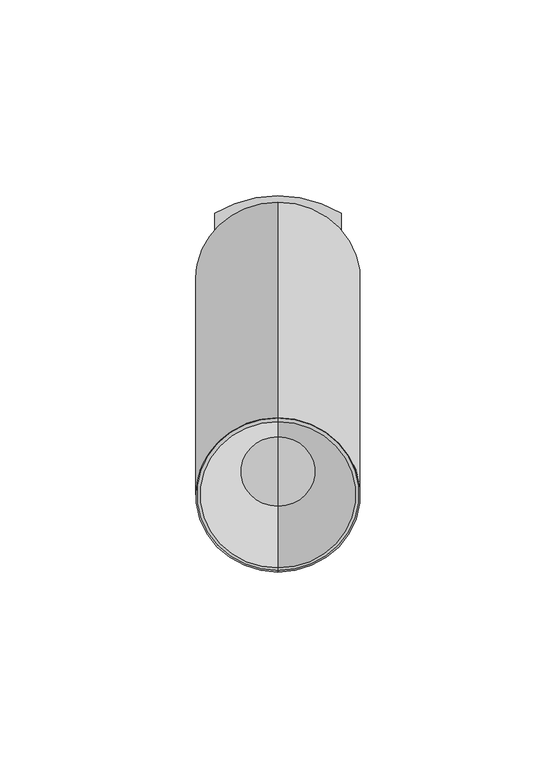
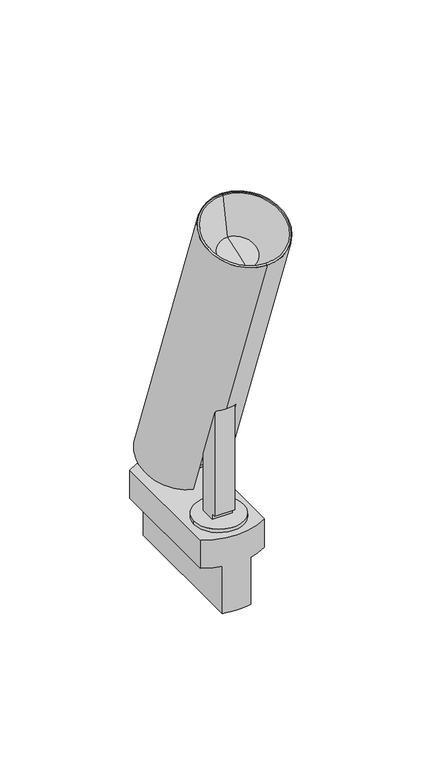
"""IFC4 building model written with IfcOpenShell, lengths in millimetres: light fixture geometry, PIPES T XS : 490lm 7,8W 930 38°."""

from ifc_helpers import new_model, si_unit, point, frame, frame_2d, origin, origin_2d, place, context, project, spatial, polyline, circle_curve, trimmed, segment, composite_curve, outline, extrude, source, transform, mapped, element, save
from ifc_brep_helpers import plane_surface, cylinder_surface, revolved_surface, advanced_brep


def light_fixture_c654edfe(model_context):
    return source(origin(), model_context, "Body", "SolidModel", [
        extrude(outline(composite_curve([segment(polyline([(5.0, 16.8), (-3.0, 16.8), (-3.0, 19.8), (-5.0, 19.8), (-5.0, 77.8486083), (3.0, 77.8486083)]), True, "CONTINUOUS"), segment(trimmed(circle_curve(frame_2d((3.0, 72.2216603)), 5.626948), [point((3.0, 77.8486083))], [point((8.626948, 72.2216603))], False, "CARTESIAN"), True, "CONTINUOUS"), segment(polyline([(8.626948, 72.2216603), (8.626948, 66.4039036)]), True, "CONTINUOUS"), segment(trimmed(circle_curve(frame_2d((2.7611322, 74.2485419)), 9.7952104), [point((8.626948, 66.4039036))], [point((5.0, 64.7126299))], False, "CARTESIAN"), True, "CONTINUOUS"), segment(polyline([(5.0, 64.7126299), (5.0, 16.8)]), True, "CONTINUOUS")], self_intersect=False)), frame((-5.0, 0.0, 0.0), z_axis=(1.0, 0.0, 0.0), x_axis=(0.0, 1.0, 0.0)), (0.0, 0.0, 1.0), 10.0),
        extrude(outline(composite_curve([segment(trimmed(circle_curve(origin_2d(), 12.5), [point((12.5, 0.0))], [point((-12.5, 0.0))], False, "CARTESIAN"), True, "CONTINUOUS"), segment(trimmed(circle_curve(origin_2d(), 12.5), [point((-12.5, 0.0))], [point((12.5, 0.0))], False, "CARTESIAN"), True, "CONTINUOUS")], self_intersect=False)), frame((0.0, 0.0, 15.0), z_axis=(0.0, 0.0, 1.0), x_axis=(1.0, 0.0, 0.0)), (0.0, 0.0, 1.0), 1.8),
        advanced_brep(
        [(-7.1153658, -15.2862846, -25.0), (-7.1153658, 53.3498174, -25.0), (7.1153658, 53.3498174, -25.0), (7.1153658, -15.2862846, -25.0), (-16.1153658, 49.7317664, 15.0), (-16.1153658, -11.6682336, 15.0), (16.1153658, -11.6682336, 15.0), (16.1153658, 49.7317664, 15.0), (-16.1153658, 49.7317664, 0.0), (-16.1153658, -11.6682336, 0.0), (-7.1153658, -15.2862846, 0.0), (7.1153658, -15.2862846, 0.0), (16.1153658, -11.6682336, 0.0), (16.1153658, 49.7317664, 0.0), (7.1153658, 53.3498174, 0.0), (-7.1153658, 53.3498174, 0.0)],
        [
            (0, 1),
            (1, 2, circle_curve(frame((0.0, 22.6472542, -25.0), z_axis=(0.0, 0.0, -1.0), x_axis=(1.0, 0.0, 0.0)), 31.5162786)),
            (2, 3),
            (3, 0, circle_curve(frame((0.0, 15.4162786, -25.0), z_axis=(0.0, 0.0, -1.0), x_axis=(1.0, 0.0, 0.0)), 31.5162786)),
            (4, 5),
            (5, 6, circle_curve(frame((0.0, 15.4162786, 15.0), z_axis=(0.0, 0.0, 1.0), x_axis=(1.0, 0.0, 0.0)), 31.5162786)),
            (6, 7),
            (7, 4, circle_curve(frame((0.0, 22.6472542, 15.0), z_axis=(0.0, 0.0, 1.0), x_axis=(1.0, 0.0, 0.0)), 31.5162786)),
            (4, 8),
            (8, 9),
            (9, 5),
            (9, 10, circle_curve(frame((0.0, 15.4162786, 0.0), z_axis=(0.0, 0.0, 1.0), x_axis=(1.0, 0.0, 0.0)), 31.5162786)),
            (10, 0),
            (3, 11),
            (11, 12, circle_curve(frame((0.0, 15.4162786, 0.0), z_axis=(0.0, 0.0, 1.0), x_axis=(1.0, 0.0, 0.0)), 31.5162786)),
            (12, 6),
            (12, 13),
            (13, 7),
            (13, 14, circle_curve(frame((0.0, 22.6472542, 0.0), z_axis=(0.0, 0.0, 1.0), x_axis=(1.0, 0.0, 0.0)), 31.5162786)),
            (14, 2),
            (1, 15),
            (15, 8, circle_curve(frame((0.0, 22.6472542, 0.0), z_axis=(0.0, 0.0, 1.0), x_axis=(1.0, 0.0, 0.0)), 31.5162786)),
            (15, 10),
            (11, 14),
        ],
        [
            plane_surface(frame((-16.1153658, -11.6883244, -25.0), z_axis=(0.0, 0.0, -1.0), x_axis=(0.0, 1.0, 0.0))),
            plane_surface(frame((-16.1153658, -11.6883244, 15.0), z_axis=(0.0, 0.0, 1.0), x_axis=(0.0, -1.0, 0.0))),
            plane_surface(frame((-16.1153658, 49.7317664, 15.0), z_axis=(-1.0, 0.0, 0.0), x_axis=(0.0, 0.0, -1.0))),
            cylinder_surface(frame((0.0, 15.4162786, -25.0), z_axis=(0.0, 0.0, 1.0), x_axis=(1.0, 0.0, 0.0)), 31.5162786),
            plane_surface(frame((16.1153658, -11.6682336, 15.0), z_axis=(1.0, 0.0, 0.0), x_axis=(0.0, 0.0, -1.0))),
            cylinder_surface(frame((0.0, 22.6472542, -25.0), z_axis=(0.0, 0.0, 1.0), x_axis=(1.0, 0.0, 0.0)), 31.5162786),
            plane_surface(frame((-7.1153658, 58.6979838, 0.0), z_axis=(0.0, 0.0, -1.0), x_axis=(-1.0, 0.0, 0.0))),
            plane_surface(frame((-7.1153658, -21.3020162, 0.0), z_axis=(-1.0, 0.0, 0.0), x_axis=(0.0, 0.0, -1.0))),
            plane_surface(frame((7.1153658, -11.6883244, 0.0), z_axis=(0.0, 0.0, -1.0), x_axis=(0.0, -1.0, 0.0))),
            plane_surface(frame((7.1153658, 58.6979838, 0.0), z_axis=(1.0, 0.0, 0.0), x_axis=(0.0, 0.0, -1.0))),
        ],
        [
            (0, [[1, 2, 3, 4]]),
            (1, [[5, 6, 7, 8]]),
            (2, [[-5, 9, 10, 11]]),
            (3, [[-6, -11, 12, 13, -4, 14, 15, 16]]),
            (4, [[-7, -16, 17, 18]]),
            (5, [[-8, -18, 19, 20, -2, 21, 22, -9]]),
            (6, [[23, -12, -10, -22]]),
            (7, [[-23, -21, -1, -13]]),
            (8, [[24, -19, -17, -15]]),
            (9, [[-24, -14, -3, -20]]),
        ],
    ),
        advanced_brep(
        [(5.0, 2.9883624, 79.4085638), (5.0, 20.4313897, 31.4842402), (5.0, 13.5431583, 28.977129), (5.0, 15.5952791, 23.3389732), (5.0, 13.6540853, 22.6324365), (5.0, -5.8410628, 76.1949159), (-5.0, 2.9883624, 79.4085638), (-5.0, -5.8410628, 76.1949159), (-5.0, 13.6540853, 22.6324365), (-5.0, 15.5952791, 23.3389732), (-5.0, 13.5431583, 28.977129), (-5.0, 20.4313897, 31.4842402), (0.0, 20.4313897, 31.4842402), (0.0, -6.4085638, 75.9883624), (0.0, -41.9786587, 173.7163949), (0.0, -2.5115687, 188.081241), (0.0, 52.5536744, 36.790729), (0.0, 50.6742892, 36.1066887), (0.0, 48.6221683, 41.7448445), (0.0, 30.7680085, 35.2464617), (0.0, -6.5208148, 166.9347059), (0.0, -25.3146672, 160.094303), (0.0, -15.917741, 163.5145045)],
        [
            (0, 1),
            (1, 2),
            (2, 3),
            (3, 4),
            (4, 5),
            (5, 0),
            (6, 7),
            (7, 8),
            (8, 9),
            (9, 10),
            (10, 11),
            (11, 6),
            (0, 6),
            (11, 12),
            (12, 1),
            (5, 13, circle_curve(frame((0.0, 13.3249812, 83.1707854), z_axis=(0.0, 0.34202014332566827, -0.9396926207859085), x_axis=(0.0, -0.9396926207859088, -0.3420201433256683)), 21.0)),
            (13, 7, circle_curve(frame((0.0, 13.3249812, 83.1707854), z_axis=(0.0, 0.34202014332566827, -0.9396926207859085), x_axis=(0.0, -0.9396926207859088, -0.3420201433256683)), 21.0)),
            (14, 15, circle_curve(frame((0.0, -22.2451137, 180.898818), z_axis=(0.0, 0.34202014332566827, -0.9396926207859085), x_axis=(0.0, -0.9396926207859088, -0.3420201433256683)), 21.0)),
            (15, 16),
            (16, 8, circle_curve(frame((0.0, 32.8201294, 29.608306), z_axis=(0.0, -0.34202014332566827, 0.9396926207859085), x_axis=(0.0, -0.9396926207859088, -0.3420201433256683)), 21.0)),
            (13, 14),
            (15, 14, circle_curve(frame((0.0, -22.2451137, 180.898818), z_axis=(0.0, 0.34202014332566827, -0.9396926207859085), x_axis=(0.0, -0.9396926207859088, -0.3420201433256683)), 21.0)),
            (4, 16, circle_curve(frame((0.0, 32.8201294, 29.608306), z_axis=(0.0, -0.34202014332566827, 0.9396926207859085), x_axis=(0.0, -0.9396926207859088, -0.3420201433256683)), 21.0)),
            (16, 17),
            (17, 9, circle_curve(frame((0.0, 32.8201294, 29.608306), z_axis=(0.0, -0.34202014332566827, 0.9396926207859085), x_axis=(0.0, -0.9396926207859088, -0.3420201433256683)), 19.0)),
            (3, 17, circle_curve(frame((0.0, 32.8201294, 29.608306), z_axis=(0.0, -0.34202014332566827, 0.9396926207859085), x_axis=(0.0, -0.9396926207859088, -0.3420201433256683)), 19.0)),
            (17, 18),
            (18, 10, circle_curve(frame((0.0, 30.7680085, 35.2464617), z_axis=(0.0, -0.34202014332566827, 0.9396926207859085), x_axis=(0.0, -0.9396926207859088, -0.3420201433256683)), 19.0)),
            (2, 18, circle_curve(frame((0.0, 30.7680085, 35.2464617), z_axis=(0.0, -0.34202014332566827, 0.9396926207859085), x_axis=(0.0, -0.9396926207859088, -0.3420201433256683)), 19.0)),
            (18, 19),
            (19, 12),
            (20, 21, circle_curve(frame((0.0, -15.917741, 163.5145045), z_axis=(0.0, -0.34202014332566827, 0.9396926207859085), x_axis=(0.0, -0.9396926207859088, -0.3420201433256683)), 10.0)),
            (21, 22),
            (22, 20),
            (21, 20, circle_curve(frame((0.0, -15.917741, 163.5145045), z_axis=(0.0, -0.34202014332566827, 0.9396926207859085), x_axis=(0.0, -0.9396926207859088, -0.3420201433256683)), 10.0)),
            (14, 21),
            (20, 15),
        ],
        [
            plane_surface(frame((5.0, 2.9883624, 79.4085638), z_axis=(-1.0, 0.0, 0.0), x_axis=(0.0, -0.3420201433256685, 0.9396926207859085))),
            plane_surface(frame((-5.0, 2.9883624, 79.4085638), z_axis=(1.0, 0.0, 0.0), x_axis=(0.0, 0.3420201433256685, -0.9396926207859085))),
            plane_surface(frame((-5.0, 2.9883624, 79.4085638), z_axis=(0.0, -0.9396926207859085, -0.3420201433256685), x_axis=(1.0, 0.0, 0.0))),
            plane_surface(frame((-5.0, -15.80549, 72.568161), z_axis=(0.0, 0.3420201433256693, -0.9396926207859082), x_axis=(1.0, 0.0, 0.0))),
            cylinder_surface(frame((0.0, 35.7110139, 21.665666), z_axis=(0.0, 0.34202014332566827, -0.9396926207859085), x_axis=(0.0, -0.9396926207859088, -0.3420201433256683)), 21.0),
            plane_surface(frame((0.0, 32.8201294, 29.608306), z_axis=(0.0, 0.34202014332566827, -0.9396926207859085), x_axis=(0.0, -0.9396926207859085, -0.34202014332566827))),
            revolved_surface(polyline([(0.0, 14.965969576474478, 23.109923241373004), (0.0, 12.91384868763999, 28.748079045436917)]), (0.0, 35.7110139, 21.665666), (0.0, 0.34202014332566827, -0.9396926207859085)),
            plane_surface(frame((0.0, 30.7680085, 35.2464617), z_axis=(0.0, 0.34202014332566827, -0.9396926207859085), x_axis=(0.0, -0.9396926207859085, -0.34202014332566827))),
            plane_surface(frame((0.0, -15.917741, 163.5145045), z_axis=(0.0, -0.34202014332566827, 0.9396926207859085), x_axis=(0.0, -0.9396926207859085, -0.34202014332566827))),
            revolved_surface(polyline([(0.0, -25.3146672, 160.094303), (0.0, -41.9786587, 173.7163949)]), (0.0, 35.7110139, 21.665666), (0.0, 0.34202014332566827, -0.9396926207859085)),
        ],
        [
            (0, [[1, 2, 3, 4, 5, 6]]),
            (1, [[7, 8, 9, 10, 11, 12]]),
            (2, [[13, -12, 14, 15, -1]]),
            (3, [[-13, -6, 16, 17, -7]]),
            (4, [[18, 19, 20, -8, -17, 21]]),
            (4, [[-19, 22, -21, -16, -5, 23]]),
            (5, [[24, 25, -9, -20]]),
            (5, [[-24, -23, -4, 26]]),
            (6, [[27, 28, -10, -25]]),
            (6, [[-27, -26, -3, 29]]),
            (7, [[30, 31, -14, -11, -28]]),
            (7, [[-30, -29, -2, -15, -31]]),
            (8, [[32, 33, 34]]),
            (8, [[-33, 35, -34]]),
            (9, [[-18, 36, -32, 37]]),
            (9, [[-22, -37, -35, -36]]),
        ],
    ),
        advanced_brep(
        [(5.0, 21.7994703, 27.7254697), (5.0, 22.4835106, 25.8460844), (5.0, 17.5581813, 24.0534112), (5.0, 16.874141, 25.9327964), (-5.0, 22.4835106, 25.8460844), (-5.0, 21.7994703, 27.7254697), (-5.0, 16.874141, 25.9327964), (-5.0, 17.5581813, 24.0534112), (0.0, 21.7994703, 27.7254697), (0.0, 22.4835106, 25.8460844), (0.0, 32.1360891, 31.4876913), (0.0, 48.1048904, 37.2998596), (0.0, 48.7889307, 35.4204744), (0.0, 32.8201294, 29.608306)],
        [
            (0, 1),
            (1, 2),
            (2, 3),
            (3, 0),
            (4, 5),
            (5, 6),
            (6, 7),
            (7, 4),
            (0, 8),
            (8, 5),
            (4, 9),
            (9, 1),
            (10, 11),
            (11, 6, circle_curve(frame((0.0, 32.1360891, 31.4876913), z_axis=(0.0, -0.34202014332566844, 0.9396926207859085), x_axis=(0.0, -0.9396926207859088, -0.3420201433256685)), 16.9936434)),
            (8, 10),
            (3, 11, circle_curve(frame((0.0, 32.1360891, 31.4876913), z_axis=(0.0, -0.34202014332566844, 0.9396926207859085), x_axis=(0.0, -0.9396926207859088, -0.3420201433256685)), 16.9936434)),
            (11, 12),
            (12, 7, circle_curve(frame((0.0, 32.8201294, 29.608306), z_axis=(0.0, -0.34202014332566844, 0.9396926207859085), x_axis=(0.0, -0.9396926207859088, -0.3420201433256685)), 16.9936434)),
            (2, 12, circle_curve(frame((0.0, 32.8201294, 29.608306), z_axis=(0.0, -0.34202014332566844, 0.9396926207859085), x_axis=(0.0, -0.9396926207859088, -0.3420201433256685)), 16.9936434)),
            (12, 13),
            (13, 9),
        ],
        [
            plane_surface(frame((5.0, 2.9883624, 79.4085638), z_axis=(-1.0, 0.0, 0.0), x_axis=(0.0, -0.3420201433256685, 0.9396926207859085))),
            plane_surface(frame((-5.0, 2.9883624, 79.4085638), z_axis=(1.0, 0.0, 0.0), x_axis=(0.0, 0.3420201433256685, -0.9396926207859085))),
            plane_surface(frame((-5.0, 2.9883624, 79.4085638), z_axis=(0.0, -0.9396926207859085, -0.3420201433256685), x_axis=(1.0, 0.0, 0.0))),
            plane_surface(frame((0.0, 32.1360891, 31.4876913), z_axis=(0.0, -0.34202014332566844, 0.9396926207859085), x_axis=(0.0, -0.9396926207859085, -0.34202014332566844))),
            cylinder_surface(frame((0.0, -12.3428162, 153.6924792), z_axis=(0.0, 0.34202014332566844, -0.9396926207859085), x_axis=(0.0, -0.9396926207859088, -0.3420201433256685)), 16.9936434),
            plane_surface(frame((0.0, 32.8201294, 29.608306), z_axis=(0.0, 0.34202014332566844, -0.9396926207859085), x_axis=(0.0, -0.9396926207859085, -0.34202014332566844))),
        ],
        [
            (0, [[1, 2, 3, 4]]),
            (1, [[5, 6, 7, 8]]),
            (2, [[-1, 9, 10, -5, 11, 12]]),
            (3, [[13, 14, -6, -10, 15]]),
            (3, [[-13, -15, -9, -4, 16]]),
            (4, [[17, 18, -7, -14]]),
            (4, [[-17, -16, -3, 19]]),
            (5, [[20, 21, -11, -8, -18]]),
            (5, [[-20, -19, -2, -12, -21]]),
        ],
    ),
        advanced_brep(
        [(0.0, -7.3973547, 167.6798493), (0.0, -25.1221677, 161.2285449), (0.0, -16.2597612, 164.4541971), (0.0, -3.6048245, 187.6833284), (0.0, -40.8854029, 174.1143075), (0.0, -2.5115687, 188.081241), (0.0, -41.9786587, 173.7163949), (0.0, -6.5208148, 166.9347059), (0.0, -25.3146672, 160.094303), (0.0, -15.917741, 163.5145045)],
        [
            (0, 1, circle_curve(frame((0.0, -16.2597612, 164.4541971), z_axis=(0.0, -0.34202014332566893, 0.9396926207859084), x_axis=(0.0, -0.9396926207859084, -0.34202014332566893)), 9.431176)),
            (1, 2),
            (2, 0),
            (1, 0, circle_curve(frame((0.0, -16.2597612, 164.4541971), z_axis=(0.0, -0.34202014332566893, 0.9396926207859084), x_axis=(0.0, -0.9396926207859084, -0.34202014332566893)), 9.431176)),
            (3, 4, circle_curve(frame((0.0, -22.2451137, 180.898818), z_axis=(0.0, -0.34202014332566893, 0.9396926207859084), x_axis=(0.0, -0.9396926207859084, -0.34202014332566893)), 19.8365814)),
            (4, 1),
            (0, 3),
            (4, 3, circle_curve(frame((0.0, -22.2451137, 180.898818), z_axis=(0.0, -0.34202014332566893, 0.9396926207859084), x_axis=(0.0, -0.9396926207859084, -0.34202014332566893)), 19.8365814)),
            (5, 6, circle_curve(frame((0.0, -22.2451137, 180.898818), z_axis=(0.0, -0.34202014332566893, 0.9396926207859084), x_axis=(0.0, -0.9396926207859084, -0.34202014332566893)), 21.0)),
            (6, 4),
            (3, 5),
            (6, 5, circle_curve(frame((0.0, -22.2451137, 180.898818), z_axis=(0.0, -0.34202014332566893, 0.9396926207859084), x_axis=(0.0, -0.9396926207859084, -0.34202014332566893)), 21.0)),
            (7, 8, circle_curve(frame((0.0, -15.917741, 163.5145045), z_axis=(0.0, -0.34202014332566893, 0.9396926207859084), x_axis=(0.0, -0.9396926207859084, -0.34202014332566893)), 10.0)),
            (8, 6),
            (5, 7),
            (8, 7, circle_curve(frame((0.0, -15.917741, 163.5145045), z_axis=(0.0, -0.34202014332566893, 0.9396926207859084), x_axis=(0.0, -0.9396926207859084, -0.34202014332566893)), 10.0)),
            (9, 8),
            (7, 9),
        ],
        [
            plane_surface(frame((0.0, -16.2597612, 164.4541971), z_axis=(0.0, -0.34202014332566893, 0.9396926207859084), x_axis=(0.0, -0.9396926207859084, -0.34202014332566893))),
            revolved_surface(polyline([(0.0, -25.1221677, 161.2285449), (0.0, -40.8854029, 174.1143075)]), (0.0, 42.5514168, 2.8718136), (0.0, 0.3420201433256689, -0.9396926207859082)),
            plane_surface(frame((0.0, -22.2451137, 180.898818), z_axis=(0.0, -0.34202014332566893, 0.9396926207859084), x_axis=(0.0, -0.9396926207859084, -0.34202014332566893))),
            revolved_surface(polyline([(0.0, -41.9786587, 173.7163949), (0.0, -25.3146672, 160.094303)]), (0.0, 42.5514168, 2.8718136), (0.0, 0.3420201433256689, -0.9396926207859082)),
            plane_surface(frame((0.0, -15.917741, 163.5145045), z_axis=(0.0, 0.34202014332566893, -0.9396926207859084), x_axis=(0.0, -0.9396926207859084, -0.34202014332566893))),
        ],
        [
            (0, [[1, 2, 3]]),
            (0, [[4, -3, -2]]),
            (1, [[5, 6, -1, 7]]),
            (1, [[8, -7, -4, -6]]),
            (2, [[9, 10, -5, 11]]),
            (2, [[12, -11, -8, -10]]),
            (3, [[13, 14, -9, 15]]),
            (3, [[16, -15, -12, -14]]),
            (4, [[17, -13, 18]]),
            (4, [[-18, -16, -17]]),
        ],
    ),
    ])


if __name__ == "__main__":
    model = new_model("IFC4")
    model_context = context("Model", 3, world=origin())
    ifc_project = project(units=[si_unit("LENGTHUNIT", "METRE", prefix="MILLI")], contexts=[model_context])
    site = spatial("IfcSite", under=ifc_project)
    building = spatial("IfcBuilding", under=site)
    placement = place(None, origin())
    light_fixture_shape = light_fixture_c654edfe(model_context)
    element("IfcLightFixture", 1, ObjectType="PIPES T XS : 490lm 7,8W 930 38°", at=placement, inside=building, context=model_context, shape_type="MappedRepresentation", body=[
        mapped(light_fixture_shape, transform((0.0, 0.0, 0.0), x_axis=(1.0, 0.0, 0.0), y_axis=(0.0, 1.0, 0.0), z_axis=(0.0, 0.0, 1.0))),
    ])
    save(model, "model.ifc")
